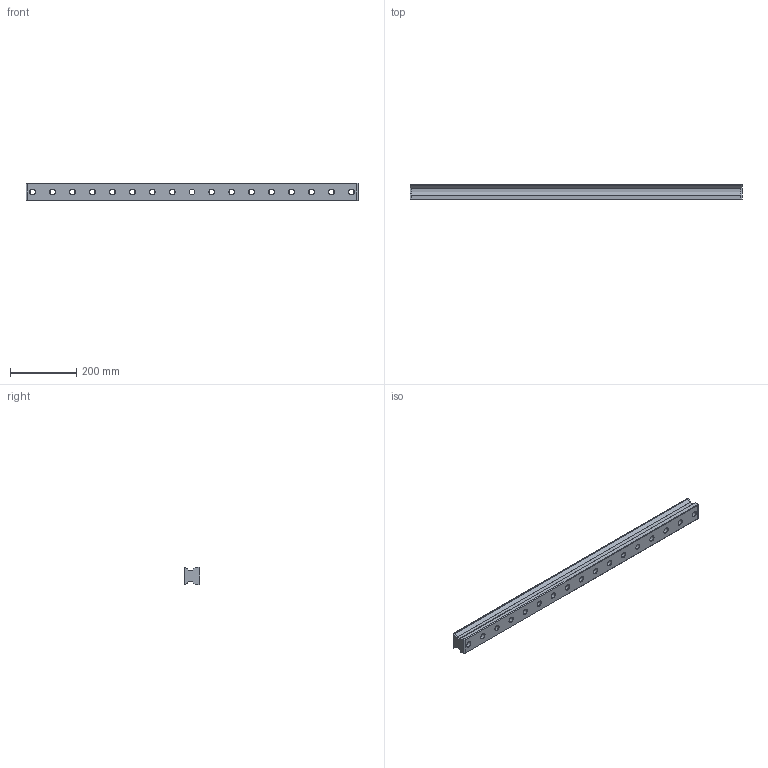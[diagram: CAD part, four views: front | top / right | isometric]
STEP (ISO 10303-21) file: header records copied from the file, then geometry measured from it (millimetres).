
FILE_DESCRIPTION(/* description */ ('STEP AP214'),/* implementation_level */ '2;1');
FILE_NAME(/* name */ 'ERG55P6-1000LA______CAD_NO_(20)',/* time_stamp */ '2026-05-18T11:22:42+02:00',/* author */ ('License CC BY-ND 4.0'),/* organization */ ('CADENAS'),/* preprocessor_version */ 'ST-DEVELOPER v20',/* originating_system */ 'PARTsolutions',/* authorisation */ ' ');
FILE_SCHEMA (('AUTOMOTIVE_DESIGN {1 0 10303 214 3 1 1}'));
Length unit declared in the file: millimetre
Products named in the file (2): ERG55P6-1000LA______CAD_NO_(20); ERG55P6-1000LA(20)_rail
Assembly tree (1 placements, depth 2):
  ERG55P6-1000LA______CAD_NO_(20)
    ERG55P6-1000LA(20)_rail
Bounding box: 1000 x 47 x 53 mm (x, y, z)
Volume: 1891311.6 mm3; surface area: 255319.6 mm2
Topology: 1 solids, 1 shells, 157 faces, 356 edges, 218 vertices
Faces by surface type: plane 75, cylinder 48, cone 34
Full cylindrical faces by diameter (mm): 16 x17, 23 x17
Entity records: 4141 total; most frequent: DIRECTION 744, CARTESIAN_POINT 665, ORIENTED_EDGE 576, AXIS2_PLACEMENT_3D 297, EDGE_CURVE 288, EDGE_LOOP 276, FACE_BOUND 276, VERTEX_POINT 218
